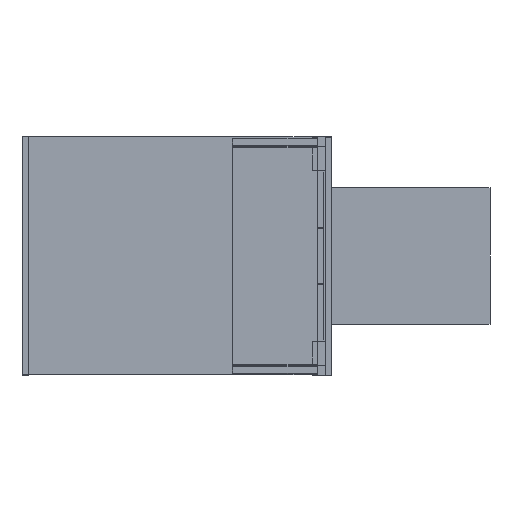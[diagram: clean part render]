
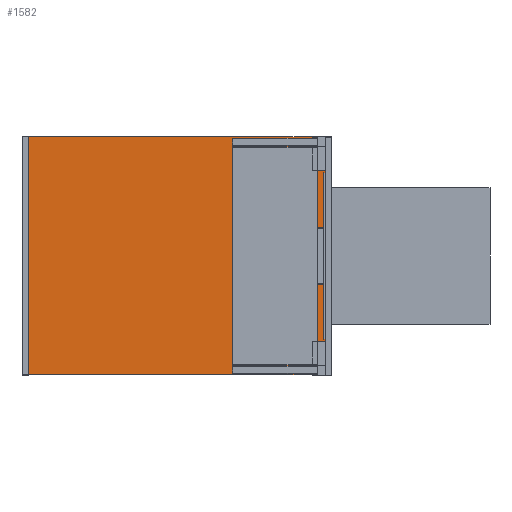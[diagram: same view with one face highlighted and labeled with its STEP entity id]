
A CAD part, left-side view. The second image highlights one B-rep face of the part: STEP entity #1582.
In plain terms, the highlighted planar face has unit normal (-1, 0, 0) as drawn and (0, 0, 1) by its records, which use the part's own axes.
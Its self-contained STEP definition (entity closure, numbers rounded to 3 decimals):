
#47 = ORIENTED_EDGE ( 'NONE', *, *, #1253, .T. ) ;
#111 = AXIS2_PLACEMENT_3D ( 'NONE', #3392, #1628, #888 ) ;
#122 = CARTESIAN_POINT ( 'NONE',  ( -148.176, 457.687, 0. ) ) ;
#153 = VERTEX_POINT ( 'NONE', #960 ) ;
#185 = PLANE ( 'NONE',  #2689 ) ;
#229 = AXIS2_PLACEMENT_3D ( 'NONE', #1501, #1151, #1093 ) ;
#336 = VERTEX_POINT ( 'NONE', #2342 ) ;
#374 = VECTOR ( 'NONE', #1735, 1000. ) ;
#409 = VERTEX_POINT ( 'NONE', #4193 ) ;
#596 = ORIENTED_EDGE ( 'NONE', *, *, #5171, .F. ) ;
#637 = CIRCLE ( 'NONE', #2033, 0.2 ) ;
#651 = CARTESIAN_POINT ( 'NONE',  ( -148.176, 457.487, 0. ) ) ;
#687 = EDGE_CURVE ( 'NONE', #1261, #1874, #2384, .T. ) ;
#832 = VECTOR ( 'NONE', #2805, 1000. ) ;
#839 = EDGE_LOOP ( 'NONE', ( #5191, #1432, #955, #4646, #596, #5238, #1116, #47 ) ) ;
#866 = DIRECTION ( 'NONE',  ( 0., 0., 1. ) ) ;
#888 = DIRECTION ( 'NONE',  ( -1., 0., 0. ) ) ;
#955 = ORIENTED_EDGE ( 'NONE', *, *, #687, .F. ) ;
#960 = CARTESIAN_POINT ( 'NONE',  ( -455.976, 73.887, 0. ) ) ;
#1003 = CIRCLE ( 'NONE', #229, 0.2 ) ;
#1093 = DIRECTION ( 'NONE',  ( -1., 0., 0. ) ) ;
#1105 = DIRECTION ( 'NONE',  ( 0., 0., 1. ) ) ;
#1115 = DIRECTION ( 'NONE',  ( -1., 0., 0. ) ) ;
#1116 = ORIENTED_EDGE ( 'NONE', *, *, #4789, .F. ) ;
#1151 = DIRECTION ( 'NONE',  ( 0., 0., 1. ) ) ;
#1237 = EDGE_CURVE ( 'NONE', #153, #1258, #2972, .T. ) ;
#1253 = EDGE_CURVE ( 'NONE', #1938, #1258, #1945, .T. ) ;
#1258 = VERTEX_POINT ( 'NONE', #5024 ) ;
#1261 = VERTEX_POINT ( 'NONE', #2915 ) ;
#1423 = DIRECTION ( 'NONE',  ( 0., -1., 0. ) ) ;
#1432 = ORIENTED_EDGE ( 'NONE', *, *, #4707, .T. ) ;
#1501 = CARTESIAN_POINT ( 'NONE',  ( -455.776, 73.887, 0. ) ) ;
#1582 = ADVANCED_FACE ( 'NONE', ( #2251 ), #185, .F. ) ;
#1628 = DIRECTION ( 'NONE',  ( 0., 0., 1. ) ) ;
#1735 = DIRECTION ( 'NONE',  ( 0., 1., 0. ) ) ;
#1755 = CARTESIAN_POINT ( 'NONE',  ( -455.776, 457.687, 0. ) ) ;
#1842 = CARTESIAN_POINT ( 'NONE',  ( -148.176, 73.687, 0. ) ) ;
#1874 = VERTEX_POINT ( 'NONE', #2732 ) ;
#1938 = VERTEX_POINT ( 'NONE', #1755 ) ;
#1945 = CIRCLE ( 'NONE', #111, 0.2 ) ;
#2033 = AXIS2_PLACEMENT_3D ( 'NONE', #5337, #1105, #2769 ) ;
#2230 = CIRCLE ( 'NONE', #5292, 0.2 ) ;
#2251 = FACE_OUTER_BOUND ( 'NONE', #839, .T. ) ;
#2257 = EDGE_CURVE ( 'NONE', #1261, #409, #637, .T. ) ;
#2336 = CARTESIAN_POINT ( 'NONE',  ( -148.176, 73.687, 0. ) ) ;
#2342 = CARTESIAN_POINT ( 'NONE',  ( -148.376, 457.687, 0. ) ) ;
#2384 = LINE ( 'NONE', #2336, #3037 ) ;
#2689 = AXIS2_PLACEMENT_3D ( 'NONE', #1842, #5187, #1115 ) ;
#2729 = VECTOR ( 'NONE', #1423, 1000. ) ;
#2732 = CARTESIAN_POINT ( 'NONE',  ( -455.776, 73.687, 0. ) ) ;
#2769 = DIRECTION ( 'NONE',  ( -1., 0., 0. ) ) ;
#2805 = DIRECTION ( 'NONE',  ( 1., 0., 0. ) ) ;
#2863 = CARTESIAN_POINT ( 'NONE',  ( -148.176, 457.687, 0. ) ) ;
#2915 = CARTESIAN_POINT ( 'NONE',  ( -148.376, 73.687, 0. ) ) ;
#2972 = LINE ( 'NONE', #5377, #374 ) ;
#3037 = VECTOR ( 'NONE', #3205, 1000. ) ;
#3205 = DIRECTION ( 'NONE',  ( -1., 0., 0. ) ) ;
#3251 = VERTEX_POINT ( 'NONE', #651 ) ;
#3392 = CARTESIAN_POINT ( 'NONE',  ( -455.776, 457.487, 0. ) ) ;
#3731 = LINE ( 'NONE', #2863, #832 ) ;
#4193 = CARTESIAN_POINT ( 'NONE',  ( -148.176, 73.887, 0. ) ) ;
#4493 = CARTESIAN_POINT ( 'NONE',  ( -148.376, 457.487, 0. ) ) ;
#4646 = ORIENTED_EDGE ( 'NONE', *, *, #2257, .T. ) ;
#4707 = EDGE_CURVE ( 'NONE', #153, #1874, #1003, .T. ) ;
#4789 = EDGE_CURVE ( 'NONE', #1938, #336, #3731, .T. ) ;
#4822 = EDGE_CURVE ( 'NONE', #3251, #336, #2230, .T. ) ;
#5002 = DIRECTION ( 'NONE',  ( -1., 0., 0. ) ) ;
#5024 = CARTESIAN_POINT ( 'NONE',  ( -455.976, 457.487, 0. ) ) ;
#5171 = EDGE_CURVE ( 'NONE', #3251, #409, #5178, .T. ) ;
#5178 = LINE ( 'NONE', #122, #2729 ) ;
#5187 = DIRECTION ( 'NONE',  ( 0., 0., -1. ) ) ;
#5191 = ORIENTED_EDGE ( 'NONE', *, *, #1237, .F. ) ;
#5238 = ORIENTED_EDGE ( 'NONE', *, *, #4822, .T. ) ;
#5292 = AXIS2_PLACEMENT_3D ( 'NONE', #4493, #866, #5002 ) ;
#5337 = CARTESIAN_POINT ( 'NONE',  ( -148.376, 73.887, 0. ) ) ;
#5377 = CARTESIAN_POINT ( 'NONE',  ( -455.976, 457.687, 0. ) ) ;
